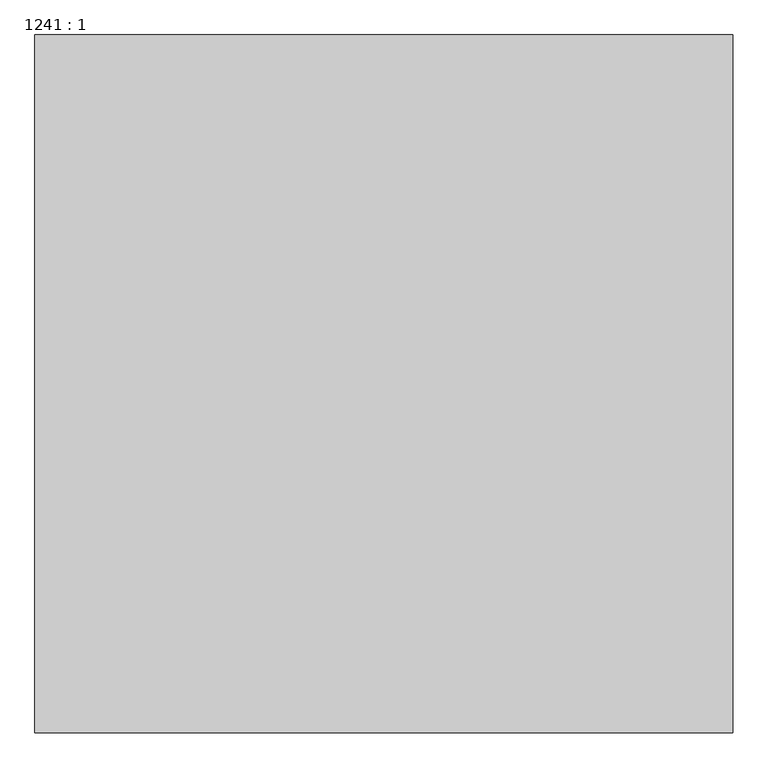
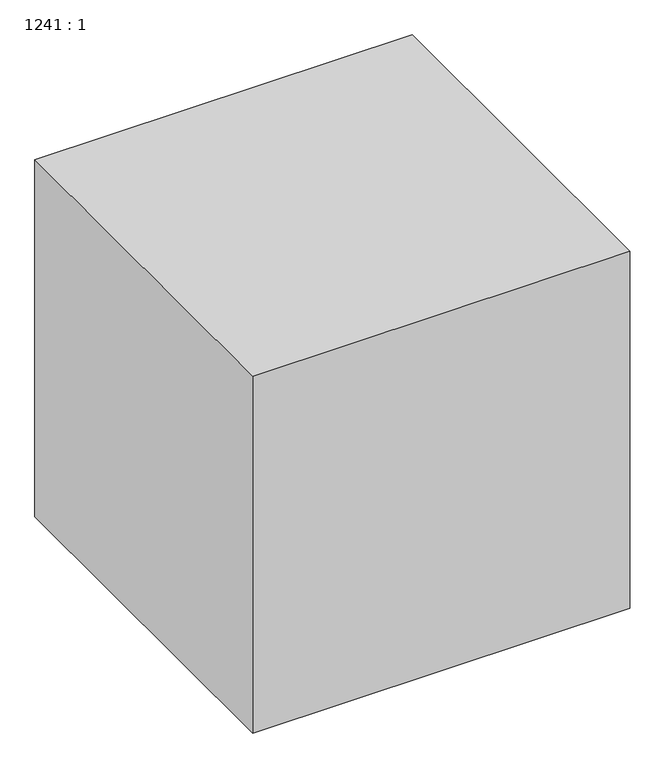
"""IFC4 building model written with IfcOpenShell, lengths in millimetres: proxy geometry, 1241 : 1."""

from ifc_helpers import new_model, si_unit, origin, origin_with_axes, place, context, project, spatial, polyline, outline, extrude, source, transform, mapped, element, save


def proxy_1241_1_b3bbd234(model_context):
    return source(origin(), model_context, "Body", "SweptSolid", [
        extrude(outline(polyline([(27692.0243292, 3335.2294472), (27692.0243292, 2335.2294472), (26692.0243292, 2335.2294472), (26692.0243292, 3335.2294472), (27692.0243292, 3335.2294472)])), origin_with_axes(), (0.0, 0.0, 1.0), 1000.0),
    ])


if __name__ == "__main__":
    model = new_model("IFC4")
    model_context = context("Model", 3, world=origin())
    ifc_project = project(units=[si_unit("LENGTHUNIT", "METRE", prefix="MILLI")], contexts=[model_context])
    site = spatial("IfcSite", under=ifc_project)
    building = spatial("IfcBuilding", under=site)
    placement = place(None, origin())
    proxy_1241_1_shape = proxy_1241_1_b3bbd234(model_context)
    element("IfcBuildingElementProxy", 1, Name="1241 : 1", ObjectType="1241 : 1", at=placement, inside=building, context=model_context, shape_type="MappedRepresentation", body=[
        mapped(proxy_1241_1_shape, transform((0.0, 0.0, 0.0), x_axis=(1.0, 0.0, 0.0), y_axis=(0.0, 1.0, 0.0), z_axis=(0.0, 0.0, 1.0))),
    ])
    save(model, "model.ifc")
